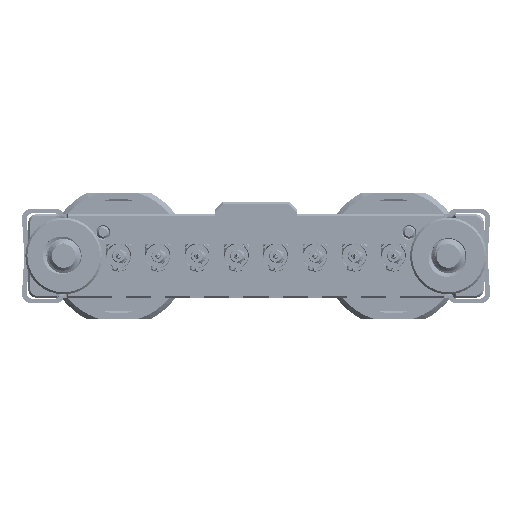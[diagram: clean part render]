
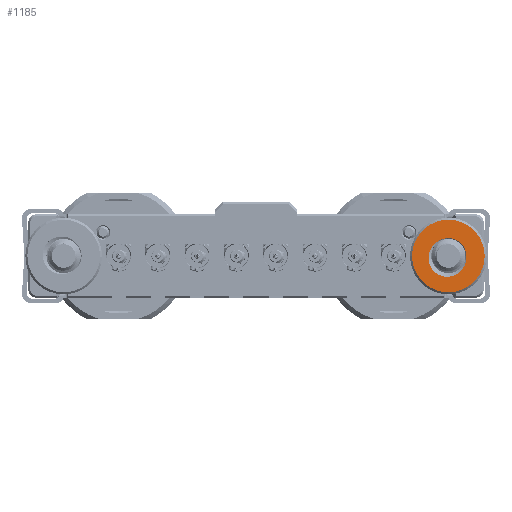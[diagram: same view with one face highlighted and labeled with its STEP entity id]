
A CAD part, front view. The second image highlights one B-rep face of the part: STEP entity #1185.
In plain terms, the highlighted planar face has unit normal (0, -1, 0) as drawn and (0, 0, 1) by its records, which use the part's own axes.
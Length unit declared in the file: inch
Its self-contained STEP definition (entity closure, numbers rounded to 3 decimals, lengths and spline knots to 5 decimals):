
#72 = CARTESIAN_POINT ( 'NONE',  ( -0.01246, -0.05165, 0. ) ) ;
#1185 = ADVANCED_FACE ( 'NONE', ( #12889, #32189 ), #45043, .T. ) ;
#1745 = VERTEX_POINT ( 'NONE', #69116 ) ;
#7371 = CARTESIAN_POINT ( 'NONE',  ( -0.03687, -0.03827, 0. ) ) ;
#7861 = DIRECTION ( 'NONE',  ( 0., 0., 1. ) ) ;
#8616 = CARTESIAN_POINT ( 'NONE',  ( 0.04462, -0.00583, 0. ) ) ;
#10807 = CARTESIAN_POINT ( 'NONE',  ( 0.04462, -0.00583, 0. ) ) ;
#11144 = EDGE_CURVE ( 'NONE', #30487, #1745, #30747, .T. ) ;
#11238 = CARTESIAN_POINT ( 'NONE',  ( -0.0342, 0.03091, 0. ) ) ;
#11385 = DIRECTION ( 'NONE',  ( 1., 0., 0. ) ) ;
#12108 = CARTESIAN_POINT ( 'NONE',  ( -0.00544, -0.05238, 0. ) ) ;
#12717 = B_SPLINE_CURVE_WITH_KNOTS ( 'NONE', 3,
 ( #8616, #67774, #15057, #74178, #28344, #48923, #68189, #55329, #73342, #21490, #75029, #14639 ),
 .UNSPECIFIED., .F., .F.,
 ( 4, 2, 2, 2, 2, 4 ),
 ( 0.00047, 0.00095, 0.00119, 0.00143, 0.00191, 0.00239 ),
 .UNSPECIFIED. ) ;
#12889 = FACE_BOUND ( 'NONE', #59037, .T. ) ;
#13313 = CARTESIAN_POINT ( 'NONE',  ( 0., 0., 0. ) ) ;
#13384 = CARTESIAN_POINT ( 'NONE',  ( -0.0192, -0.04954, 0. ) ) ;
#13946 = VERTEX_POINT ( 'NONE', #82261 ) ;
#14639 = CARTESIAN_POINT ( 'NONE',  ( -0.00544, -0.05238, 0. ) ) ;
#15057 = CARTESIAN_POINT ( 'NONE',  ( 0.04301, -0.01843, 0. ) ) ;
#16094 = CARTESIAN_POINT ( 'NONE',  ( 0., 0., 0. ) ) ;
#16412 = CARTESIAN_POINT ( 'NONE',  ( -0.04125, -0.03274, 0. ) ) ;
#16837 = CARTESIAN_POINT ( 'NONE',  ( -0.03872, 0.02629, 0. ) ) ;
#17184 = B_SPLINE_CURVE_WITH_KNOTS ( 'NONE', 3,
 ( #16412, #22853, #63958, #29276, #42583, #57094, #49864, #70366, #75543, #16837, #11238, #49009 ),
 .UNSPECIFIED., .F., .F.,
 ( 4, 2, 2, 2, 2, 4 ),
 ( 0., 0.00048, 0.00096, 0.0012, 0.00144, 0.00191 ),
 .UNSPECIFIED. ) ;
#18965 = CARTESIAN_POINT ( 'NONE',  ( -0.04125, -0.03274, 0. ) ) ;
#20565 = VERTEX_POINT ( 'NONE', #59616 ) ;
#21490 = CARTESIAN_POINT ( 'NONE',  ( 0.00718, -0.05131, 0. ) ) ;
#21982 = ORIENTED_EDGE ( 'NONE', *, *, #78178, .T. ) ;
#22853 = CARTESIAN_POINT ( 'NONE',  ( -0.04471, -0.02739, 0. ) ) ;
#23004 = DIRECTION ( 'NONE',  ( 0., 0., 1. ) ) ;
#23020 = DIRECTION ( 'NONE',  ( 0., 0., 1. ) ) ;
#24216 = VERTEX_POINT ( 'NONE', #43322 ) ;
#24268 = CARTESIAN_POINT ( 'NONE',  ( 0., 0., 0. ) ) ;
#24963 = AXIS2_PLACEMENT_3D ( 'NONE', #13313, #50667, #26172 ) ;
#26172 = DIRECTION ( 'NONE',  ( 1., 0., 0. ) ) ;
#28344 = CARTESIAN_POINT ( 'NONE',  ( 0.03744, -0.02979, 0. ) ) ;
#29116 = ORIENTED_EDGE ( 'NONE', *, *, #65783, .F. ) ;
#29276 = CARTESIAN_POINT ( 'NONE',  ( -0.04974, -0.00912, 0. ) ) ;
#29494 = ORIENTED_EDGE ( 'NONE', *, *, #41239, .T. ) ;
#29656 = CARTESIAN_POINT ( 'NONE',  ( 0.091, 0., 0. ) ) ;
#30142 = EDGE_LOOP ( 'NONE', ( #68230, #29494 ) ) ;
#30487 = VERTEX_POINT ( 'NONE', #10807 ) ;
#30555 = VERTEX_POINT ( 'NONE', #71173 ) ;
#30747 = CIRCLE ( 'NONE', #71766, 0.045 ) ;
#31528 = EDGE_CURVE ( 'NONE', #13946, #30555, #17184, .T. ) ;
#32189 = FACE_OUTER_BOUND ( 'NONE', #30142, .T. ) ;
#32977 = CIRCLE ( 'NONE', #53527, 0.045 ) ;
#35378 = EDGE_CURVE ( 'NONE', #20565, #13946, #75066, .T. ) ;
#38274 = CARTESIAN_POINT ( 'NONE',  ( -0.03152, -0.04277, 0. ) ) ;
#40584 = CIRCLE ( 'NONE', #62479, 0.091 ) ;
#41239 = EDGE_CURVE ( 'NONE', #55298, #24216, #40584, .T. ) ;
#42583 = CARTESIAN_POINT ( 'NONE',  ( -0.04992, -0.00273, 0. ) ) ;
#43322 = CARTESIAN_POINT ( 'NONE',  ( -0.091, 0., 0. ) ) ;
#45043 = PLANE ( 'NONE',  #24963 ) ;
#47989 = ORIENTED_EDGE ( 'NONE', *, *, #11144, .F. ) ;
#48923 = CARTESIAN_POINT ( 'NONE',  ( 0.03372, -0.03487, 0. ) ) ;
#49009 = CARTESIAN_POINT ( 'NONE',  ( -0.02899, 0.03442, 0. ) ) ;
#49864 = CARTESIAN_POINT ( 'NONE',  ( -0.04754, 0.00962, 0. ) ) ;
#50667 = DIRECTION ( 'NONE',  ( 0., 0., 1. ) ) ;
#53527 = AXIS2_PLACEMENT_3D ( 'NONE', #80285, #7861, #66165 ) ;
#55298 = VERTEX_POINT ( 'NONE', #29656 ) ;
#55329 = CARTESIAN_POINT ( 'NONE',  ( 0.02456, -0.04359, 0. ) ) ;
#57094 = CARTESIAN_POINT ( 'NONE',  ( -0.04836, 0.0066, 0. ) ) ;
#59037 = EDGE_LOOP ( 'NONE', ( #47989, #21982, #67563, #75557, #29116 ) ) ;
#59616 = CARTESIAN_POINT ( 'NONE',  ( -0.00544, -0.05238, 0. ) ) ;
#61946 = DIRECTION ( 'NONE',  ( 1., 0., 0. ) ) ;
#62479 = AXIS2_PLACEMENT_3D ( 'NONE', #24268, #23004, #11385 ) ;
#63958 = CARTESIAN_POINT ( 'NONE',  ( -0.04712, -0.02153, 0. ) ) ;
#65783 = EDGE_CURVE ( 'NONE', #1745, #30555, #32977, .T. ) ;
#66165 = DIRECTION ( 'NONE',  ( 1., 0., 0. ) ) ;
#67563 = ORIENTED_EDGE ( 'NONE', *, *, #35378, .T. ) ;
#67774 = CARTESIAN_POINT ( 'NONE',  ( 0.04447, -0.01213, 0. ) ) ;
#68189 = CARTESIAN_POINT ( 'NONE',  ( 0.03161, -0.0372, 0. ) ) ;
#68230 = ORIENTED_EDGE ( 'NONE', *, *, #83067, .T. ) ;
#69116 = CARTESIAN_POINT ( 'NONE',  ( 0.045, 0., 0. ) ) ;
#69297 = DIRECTION ( 'NONE',  ( 1., 0., 0. ) ) ;
#70366 = CARTESIAN_POINT ( 'NONE',  ( -0.04528, 0.01548, 0. ) ) ;
#71173 = CARTESIAN_POINT ( 'NONE',  ( -0.02899, 0.03442, 0. ) ) ;
#71766 = AXIS2_PLACEMENT_3D ( 'NONE', #16094, #74379, #61946 ) ;
#73342 = CARTESIAN_POINT ( 'NONE',  ( 0.01905, -0.04686, 0. ) ) ;
#74178 = CARTESIAN_POINT ( 'NONE',  ( 0.03907, -0.02702, 0. ) ) ;
#74379 = DIRECTION ( 'NONE',  ( 0., 0., 1. ) ) ;
#75029 = CARTESIAN_POINT ( 'NONE',  ( 0.00093, -0.05242, 0. ) ) ;
#75066 = B_SPLINE_CURVE_WITH_KNOTS ( 'NONE', 3,
 ( #12108, #72, #13384, #38274, #7371, #18965 ),
 .UNSPECIFIED., .F., .F.,
 ( 4, 2, 4 ),
 ( 0., 0.00054, 0.00107 ),
 .UNSPECIFIED. ) ;
#75543 = CARTESIAN_POINT ( 'NONE',  ( -0.04383, 0.01835, 0. ) ) ;
#75557 = ORIENTED_EDGE ( 'NONE', *, *, #31528, .T. ) ;
#77704 = AXIS2_PLACEMENT_3D ( 'NONE', #82138, #23020, #69297 ) ;
#78178 = EDGE_CURVE ( 'NONE', #30487, #20565, #12717, .T. ) ;
#80285 = CARTESIAN_POINT ( 'NONE',  ( 0., 0., 0. ) ) ;
#82138 = CARTESIAN_POINT ( 'NONE',  ( 0., 0., 0. ) ) ;
#82261 = CARTESIAN_POINT ( 'NONE',  ( -0.04125, -0.03274, 0. ) ) ;
#83067 = EDGE_CURVE ( 'NONE', #24216, #55298, #83208, .T. ) ;
#83208 = CIRCLE ( 'NONE', #77704, 0.091 ) ;
